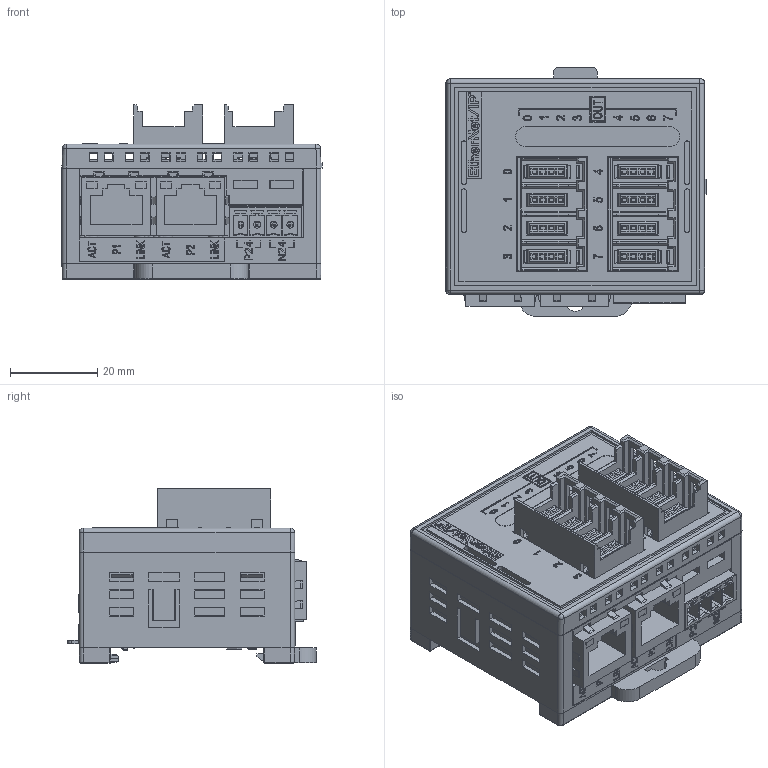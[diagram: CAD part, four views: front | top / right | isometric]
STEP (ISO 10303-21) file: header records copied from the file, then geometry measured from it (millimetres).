
FILE_DESCRIPTION((''),'2;1');
FILE_NAME('EICEP08','2026-05-11T14:14:17',('gijyu181'),(''),'CREO PARAMETRIC BY PTC INC, 2018050','CREO PARAMETRIC BY PTC INC, 2018050','');
FILE_SCHEMA(('CONFIG_CONTROL_DESIGN','SHAPE_APPEARANCE_LAYERS_GROUPS'));
Products named in the file (1): EICEP08
Bounding box: 59.75 x 57.15 x 40 mm (x, y, z)
Volume: 70224.1 mm3; surface area: 41035.2 mm2
Topology: 1 solids, 15 shells, 7452 faces, 21140 edges, 13989 vertices
Faces by surface type: plane 5739, cylinder 898, extrusion 701, sphere 44, torus 26, bspline 24, cone 20
Entity records: 302380 total; most frequent: CARTESIAN_POINT 51674, ORIENTED_EDGE 42252, DIRECTION 35382, EDGE_CURVE 21130, VECTOR 18142, LINE 17441, VERTEX_POINT 13989, PRESENTATION_STYLE_ASSIGNMENT 11001
